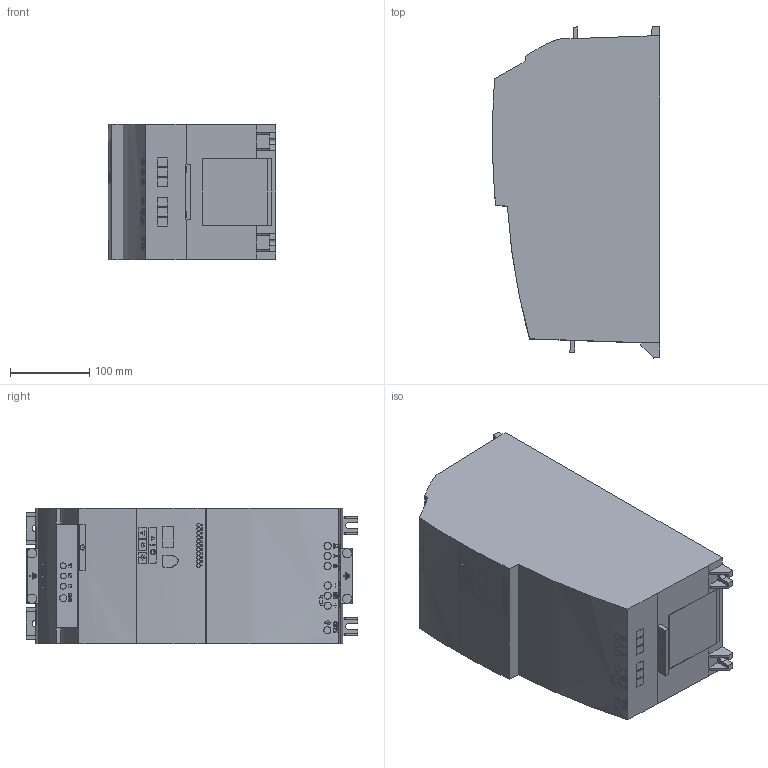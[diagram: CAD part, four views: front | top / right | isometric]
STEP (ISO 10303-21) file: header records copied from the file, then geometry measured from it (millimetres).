
FILE_DESCRIPTION (( 'STEP AP214' ), '1' );
FILE_NAME ('E3 S4 IP20.STEP', '2017-08-15T10:13:32', ( '' ), ( '' ), 'SwSTEP 2.0', 'SolidWorks 2017', '' );
FILE_SCHEMA (( 'AUTOMOTIVE_DESIGN' ));
Length unit declared in the file: millimetre
Products named in the file (1): E3 S4 IP20
Bounding box: 210.8 x 418.77 x 171.08 mm (x, y, z)
Volume: 12486570.8 mm3; surface area: 354346.6 mm2
Topology: 1 solids, 1 shells, 2680 faces, 7678 edges, 5112 vertices
Faces by surface type: plane 2339, bspline 215, cylinder 126
Entity records: 99592 total; most frequent: CARTESIAN_POINT 38985, ORIENTED_EDGE 15356, DIRECTION 8623, EDGE_CURVE 7678, VERTEX_POINT 5112, B_SPLINE_CURVE_WITH_KNOTS 3506, VECTOR 3185, LINE 3185
